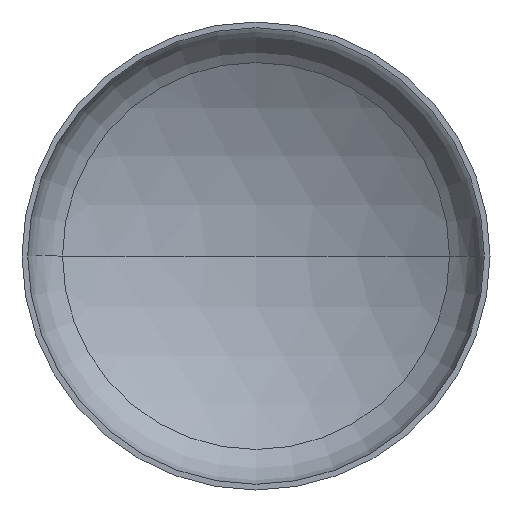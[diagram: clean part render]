
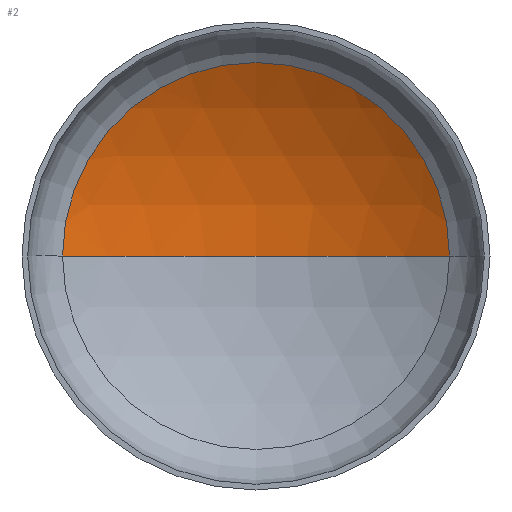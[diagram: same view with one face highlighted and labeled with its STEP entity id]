
A CAD part, front view. The second image highlights one B-rep face of the part: STEP entity #2.
In plain terms, the highlighted spherical face has radius 6400 mm.
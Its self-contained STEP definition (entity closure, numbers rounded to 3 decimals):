
#1 = DIRECTION ( 'NONE',  ( 1., 0., 0. ) ) ;
#2 = ADVANCED_FACE ( 'NONE', ( #160 ), #165, .F. ) ;
#4 = DIRECTION ( 'NONE',  ( 0., 0., 1. ) ) ;
#8 = ORIENTED_EDGE ( 'NONE', *, *, #144, .T. ) ;
#28 = ORIENTED_EDGE ( 'NONE', *, *, #151, .T. ) ;
#34 = VERTEX_POINT ( 'NONE', #353 ) ;
#69 = ORIENTED_EDGE ( 'NONE', *, *, #152, .F. ) ;
#70 = AXIS2_PLACEMENT_3D ( 'NONE', #118, #4, #1 ) ;
#71 = VERTEX_POINT ( 'NONE', #249 ) ;
#73 = AXIS2_PLACEMENT_3D ( 'NONE', #206, #359, #355 ) ;
#76 = AXIS2_PLACEMENT_3D ( 'NONE', #201, #202, #192 ) ;
#87 = VERTEX_POINT ( 'NONE', #231 ) ;
#102 = AXIS2_PLACEMENT_3D ( 'NONE', #286, #287, #285 ) ;
#103 = CIRCLE ( 'NONE', #76, 3307.698 ) ;
#118 = CARTESIAN_POINT ( 'NONE',  ( 0., -4325.982, 0. ) ) ;
#138 = EDGE_LOOP ( 'NONE', ( #69, #28, #8 ) ) ;
#144 = EDGE_CURVE ( 'NONE', #34, #71, #103, .T. ) ;
#151 = EDGE_CURVE ( 'NONE', #87, #34, #386, .T. ) ;
#152 = EDGE_CURVE ( 'NONE', #87, #71, #327, .T. ) ;
#160 = FACE_OUTER_BOUND ( 'NONE', #138, .T. ) ;
#165 = SPHERICAL_SURFACE ( 'NONE', #102, 6400. ) ;
#192 = DIRECTION ( 'NONE',  ( 1., 0., 0. ) ) ;
#201 = CARTESIAN_POINT ( 'NONE',  ( 0., 1152.99, 0. ) ) ;
#202 = DIRECTION ( 'NONE',  ( 0., -1., 0. ) ) ;
#206 = CARTESIAN_POINT ( 'NONE',  ( 0., -4325.982, 0. ) ) ;
#231 = CARTESIAN_POINT ( 'NONE',  ( 0., 2074.018, 0. ) ) ;
#249 = CARTESIAN_POINT ( 'NONE',  ( -3307.698, 1152.99, 0. ) ) ;
#285 = DIRECTION ( 'NONE',  ( -1., 0., 0. ) ) ;
#286 = CARTESIAN_POINT ( 'NONE',  ( 0., -4325.982, 0. ) ) ;
#287 = DIRECTION ( 'NONE',  ( 0., 0., -1. ) ) ;
#327 = CIRCLE ( 'NONE', #70, 6400. ) ;
#353 = CARTESIAN_POINT ( 'NONE',  ( 3307.698, 1152.99, 0. ) ) ;
#355 = DIRECTION ( 'NONE',  ( -1., 0., 0. ) ) ;
#359 = DIRECTION ( 'NONE',  ( 0., 0., -1. ) ) ;
#386 = CIRCLE ( 'NONE', #73, 6400. ) ;
